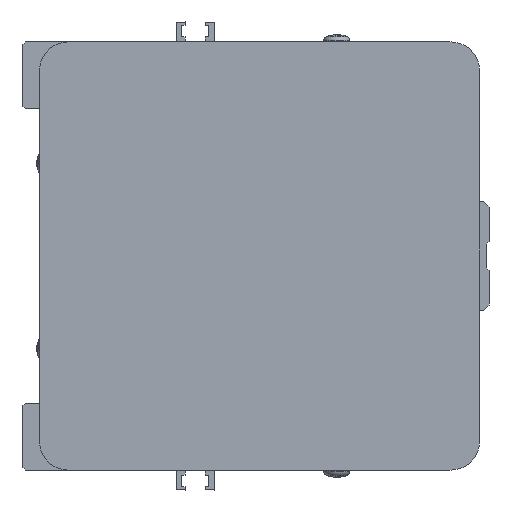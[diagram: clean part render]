
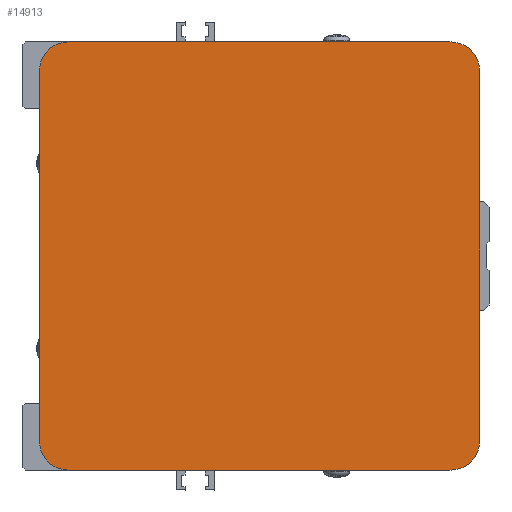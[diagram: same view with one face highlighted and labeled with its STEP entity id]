
A CAD part, left-side view. The second image highlights one B-rep face of the part: STEP entity #14913.
In plain terms, the highlighted planar face has unit normal (-1, 0, 0) as drawn and (0, 0, -1) by its records, which use the part's own axes.
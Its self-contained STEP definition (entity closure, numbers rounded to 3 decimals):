
#1153=CIRCLE('',#15885,6.);
#1155=CIRCLE('',#15890,6.);
#1156=CIRCLE('',#15896,6.);
#1157=CIRCLE('',#15898,6.);
#2046=FACE_OUTER_BOUND('',#2921,.T.);
#2921=EDGE_LOOP('',(#10407,#10408,#10409,#10410,#10411,#10412,#10413,#10414));
#4053=LINE('',#21326,#5298);
#4071=LINE('',#21365,#5316);
#4075=LINE('',#21377,#5320);
#4077=LINE('',#21384,#5322);
#5298=VECTOR('',#17425,78.);
#5316=VECTOR('',#17459,80.5);
#5320=VECTOR('',#17473,80.5);
#5322=VECTOR('',#17481,78.);
#6526=VERTEX_POINT('',#21320);
#6527=VERTEX_POINT('',#21324);
#6539=VERTEX_POINT('',#21362);
#6540=VERTEX_POINT('',#21364);
#6542=VERTEX_POINT('',#21373);
#6543=VERTEX_POINT('',#21375);
#6544=VERTEX_POINT('',#21379);
#6545=VERTEX_POINT('',#21383);
#8052=EDGE_CURVE('',#6527,#6526,#4053,.T.);
#8072=EDGE_CURVE('',#6539,#6540,#4071,.T.);
#8074=EDGE_CURVE('',#6540,#6527,#1153,.T.);
#8078=EDGE_CURVE('',#6543,#6542,#4075,.T.);
#8079=EDGE_CURVE('',#6542,#6544,#1155,.T.);
#8081=EDGE_CURVE('',#6544,#6545,#4077,.T.);
#8097=EDGE_CURVE('',#6545,#6539,#1156,.T.);
#8098=EDGE_CURVE('',#6526,#6543,#1157,.T.);
#10407=ORIENTED_EDGE('',*,*,#8079,.F.);
#10408=ORIENTED_EDGE('',*,*,#8078,.F.);
#10409=ORIENTED_EDGE('',*,*,#8098,.F.);
#10410=ORIENTED_EDGE('',*,*,#8052,.F.);
#10411=ORIENTED_EDGE('',*,*,#8074,.F.);
#10412=ORIENTED_EDGE('',*,*,#8072,.F.);
#10413=ORIENTED_EDGE('',*,*,#8097,.F.);
#10414=ORIENTED_EDGE('',*,*,#8081,.F.);
#14400=PLANE('',#15909);
#14913=ADVANCED_FACE('',(#2046),#14400,.T.);
#15885=AXIS2_PLACEMENT_3D('',#21368,#17463,#17464);
#15890=AXIS2_PLACEMENT_3D('',#21380,#17476,#17477);
#15896=AXIS2_PLACEMENT_3D('',#21412,#17505,#17506);
#15898=AXIS2_PLACEMENT_3D('',#21414,#17509,#17510);
#15909=AXIS2_PLACEMENT_3D('',#21433,#17536,#17537);
#17425=DIRECTION('',(1.,0.,0.));
#17459=DIRECTION('',(0.,-1.,0.));
#17463=DIRECTION('center_axis',(0.,0.,
1.));
#17464=DIRECTION('ref_axis',(-1.,0.,0.));
#17473=DIRECTION('',(0.,1.,0.));
#17476=DIRECTION('center_axis',(0.,0.,
1.));
#17477=DIRECTION('ref_axis',(1.,0.,0.));
#17481=DIRECTION('',(-1.,0.,0.));
#17505=DIRECTION('center_axis',(0.,0.,
1.));
#17506=DIRECTION('ref_axis',(0.,1.,0.));
#17509=DIRECTION('center_axis',(0.,0.,
1.));
#17510=DIRECTION('ref_axis',(0.,-1.,0.));
#17536=DIRECTION('center_axis',(0.,0.,
-1.));
#17537=DIRECTION('ref_axis',(0.545,-0.839,0.));
#21320=CARTESIAN_POINT('',(88.204,2.,-286.));
#21324=CARTESIAN_POINT('',(10.204,2.,-286.));
#21326=CARTESIAN_POINT('',(10.204,2.,-286.));
#21362=CARTESIAN_POINT('',(4.204,88.5,-286.));
#21364=CARTESIAN_POINT('',(4.204,8.,-286.));
#21365=CARTESIAN_POINT('',(4.204,88.5,-286.));
#21368=CARTESIAN_POINT('Origin',(10.204,8.,-286.));
#21373=CARTESIAN_POINT('',(94.204,88.5,-286.));
#21375=CARTESIAN_POINT('',(94.204,8.,-286.));
#21377=CARTESIAN_POINT('',(94.204,8.,-286.));
#21379=CARTESIAN_POINT('',(88.204,94.5,-286.));
#21380=CARTESIAN_POINT('Origin',(88.204,88.5,-286.));
#21383=CARTESIAN_POINT('',(10.204,94.5,-286.));
#21384=CARTESIAN_POINT('',(88.204,94.5,-286.));
#21412=CARTESIAN_POINT('Origin',(10.204,88.5,-286.));
#21414=CARTESIAN_POINT('Origin',(88.204,8.,-286.));
#21433=CARTESIAN_POINT('Origin',(49.204,26.,-286.));
